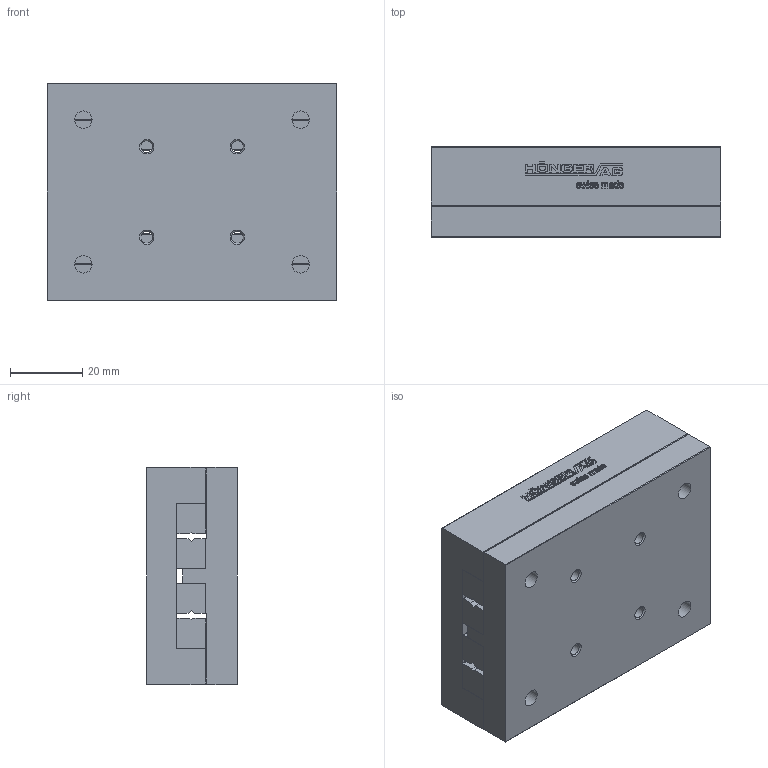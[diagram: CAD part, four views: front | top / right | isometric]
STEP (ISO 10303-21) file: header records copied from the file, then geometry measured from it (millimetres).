
FILE_DESCRIPTION(/* description */ ('STEP AP214'),/* implementation_level */ '2;1');
FILE_NAME(/* name */ 'NKL 3-80(0)',/* time_stamp */ '2025-04-23T07:59:36+02:00',/* author */ ('License CC BY-ND 4.0'),/* organization */ ('CADENAS'),/* preprocessor_version */ 'ST-DEVELOPER v19.3',/* originating_system */ 'PARTsolutions',/* authorisation */ ' ');
FILE_SCHEMA (('AUTOMOTIVE_DESIGN {1 0 10303 214 3 1 1}'));
Length unit declared in the file: millimetre
Products named in the file (3): NKL 3-80(0); NKL 3-80_1; NKL 3-80_2
Assembly tree (2 placements, depth 2):
  NKL 3-80(0)
    NKL 3-80_1
    NKL 3-80_2
Bounding box: 80 x 25 x 60 mm (x, y, z)
Volume: 115111.3 mm3; surface area: 35067.6 mm2
Topology: 2 solids, 2 shells, 609 faces, 1688 edges, 1112 vertices
Faces by surface type: cylinder 308, plane 285, cone 16
Full cylindrical faces by diameter (mm): 3.242 x8, 4.8 x4, 8 x4
Entity records: 19545 total; most frequent: DIRECTION 3512, CARTESIAN_POINT 3372, ORIENTED_EDGE 3304, EDGE_CURVE 1652, AXIS2_PLACEMENT_3D 1248, VERTEX_POINT 1108, LINE 1016, VECTOR 1016
